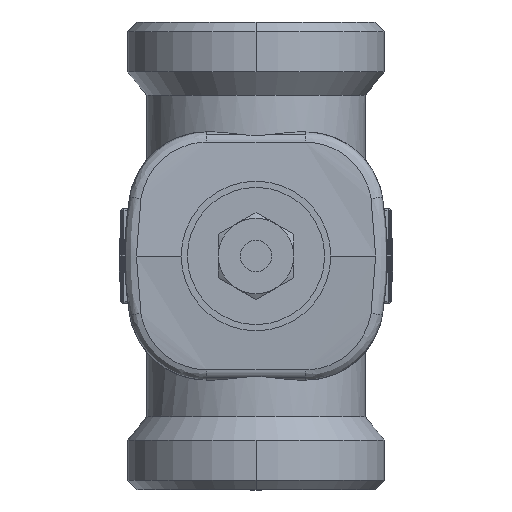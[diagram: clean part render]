
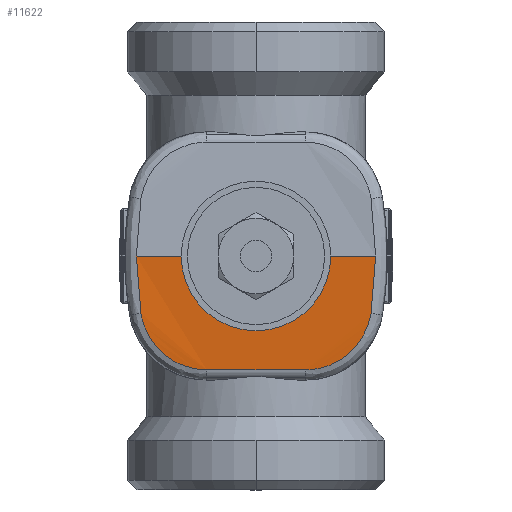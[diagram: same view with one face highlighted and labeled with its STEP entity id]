
A CAD part, front view. The second image highlights one B-rep face of the part: STEP entity #11622.
In plain terms, the highlighted free-form (B-spline) face has degree [1, 2] with [2, 9] control points.
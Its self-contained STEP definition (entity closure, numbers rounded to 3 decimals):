
#11508=CARTESIAN_POINT('',(-38.348,517.48,75.));
#11509=CARTESIAN_POINT('',(38.349,517.48,75.));
#11510=CARTESIAN_POINT('',(-38.348,517.48,-202.99));
#11511=CARTESIAN_POINT('',(38.349,517.48,-202.99));
#11512=CARTESIAN_POINT('',(-38.348,239.49,-202.99));
#11513=CARTESIAN_POINT('',(38.349,239.49,-202.99));
#11514=CARTESIAN_POINT('',(-38.348,-38.5,-202.99));
#11515=CARTESIAN_POINT('',(38.349,-38.5,-202.99));
#11516=CARTESIAN_POINT('',(-38.348,-38.5,75.));
#11517=CARTESIAN_POINT('',(38.349,-38.5,75.));
#11518=CARTESIAN_POINT('',(-38.348,-38.5,352.99));
#11519=CARTESIAN_POINT('',(38.349,-38.5,352.99));
#11520=CARTESIAN_POINT('',(-38.348,239.49,352.99));
#11521=CARTESIAN_POINT('',(38.349,239.49,352.99));
#11522=CARTESIAN_POINT('',(-38.348,517.48,352.99));
#11523=CARTESIAN_POINT('',(38.349,517.48,352.99));
#11524=CARTESIAN_POINT('',(-38.348,517.48,75.));
#11525=CARTESIAN_POINT('',(38.349,517.48,75.));
#11533=(BOUNDED_SURFACE()B_SPLINE_SURFACE(1,2,((#11508,#11510,#11512,#11514,#11516,#11518,#11520,#11522,#11524),(#11509,#11511,#11513,#11515,#11517,#11519,#11521,#11523,#11525)),.UNSPECIFIED.,.F.,.T.,.U.)B_SPLINE_SURFACE_WITH_KNOTS((2,2),(3,2,2,2,3),(-0.047,0.229),(0.0,436.665,873.331,1309.996,1746.662),.UNSPECIFIED.)GEOMETRIC_REPRESENTATION_ITEM()RATIONAL_B_SPLINE_SURFACE(((1.0,0.707,1.0,0.707,1.0,0.707,1.0,0.707,1.0),(1.0,0.707,1.0,0.707,1.0,0.707,1.0,0.707,1.0)))REPRESENTATION_ITEM('')SURFACE());
#11534=CARTESIAN_POINT('',(-38.345,-38.5,75.));
#11535=VERTEX_POINT('',#11534);
#11536=CARTESIAN_POINT('',(38.345,-38.5,75.));
#11537=VERTEX_POINT('',#11536);
#11538=CARTESIAN_POINT('',(-38.345,-38.5,75.));
#11539=DIRECTION('',(1.,0.,0.));
#11540=VECTOR('',#11539,76.69);
#11541=LINE('',#11538,#11540);
#11542=EDGE_CURVE('',#11535,#11537,#11541,.T.);
#11543=ORIENTED_EDGE('',*,*,#11542,.F.);
#11544=CARTESIAN_POINT('',(-36.867,-37.892,56.619));
#11545=VERTEX_POINT('',#11544);
#11546=CARTESIAN_POINT('',(-36.867,-37.892,56.619));
#11547=CARTESIAN_POINT('',(-37.209,-38.032,58.731));
#11548=CARTESIAN_POINT('',(-37.493,-38.148,60.859));
#11549=CARTESIAN_POINT('',(-37.974,-38.347,65.445));
#11550=CARTESIAN_POINT('',(-38.153,-38.42,67.905));
#11551=CARTESIAN_POINT('',(-38.314,-38.487,71.913));
#11552=CARTESIAN_POINT('',(-38.345,-38.5,73.456));
#11553=CARTESIAN_POINT('',(-38.345,-38.5,75.));
#11554=B_SPLINE_CURVE_WITH_KNOTS('',3,(#11546,#11547,#11548,#11549,#11550,#11551,#11552,#11553),.UNSPECIFIED.,.F.,.U.,(4,2,2,4),(0.0,5.061,10.845,14.46),.UNSPECIFIED.);
#11555=EDGE_CURVE('',#11545,#11535,#11554,.T.);
#11556=ORIENTED_EDGE('',*,*,#11555,.F.);
#11557=CARTESIAN_POINT('',(-15.831,-36.094,38.508));
#11558=VERTEX_POINT('',#11557);
#11559=CARTESIAN_POINT('',(-15.831,-36.094,38.508));
#11560=CARTESIAN_POINT('',(-17.576,-36.094,38.508));
#11561=CARTESIAN_POINT('',(-19.342,-36.124,38.729));
#11562=CARTESIAN_POINT('',(-22.998,-36.246,39.664));
#11563=CARTESIAN_POINT('',(-24.857,-36.345,40.435));
#11564=CARTESIAN_POINT('',(-27.674,-36.548,42.105));
#11565=CARTESIAN_POINT('',(-28.703,-36.635,42.846));
#11566=CARTESIAN_POINT('',(-30.13,-36.775,44.078));
#11567=CARTESIAN_POINT('',(-30.586,-36.823,44.508));
#11568=CARTESIAN_POINT('',(-31.721,-36.95,45.677));
#11569=CARTESIAN_POINT('',(-32.373,-37.031,46.45));
#11570=CARTESIAN_POINT('',(-33.92,-37.244,48.57));
#11571=CARTESIAN_POINT('',(-34.722,-37.375,49.974));
#11572=CARTESIAN_POINT('',(-36.072,-37.641,53.105));
#11573=CARTESIAN_POINT('',(-36.581,-37.775,54.852));
#11574=CARTESIAN_POINT('',(-36.867,-37.892,56.619));
#11575=B_SPLINE_CURVE_WITH_KNOTS('',3,(#11559,#11560,#11561,#11562,#11563,#11564,#11565,#11566,#11567,#11568,#11569,#11570,#11571,#11572,#11573,#11574),.UNSPECIFIED.,.F.,.U.,(4,2,2,2,2,2,2,4),(0.,4.175,8.947,11.93,13.421,15.807,19.625,23.86),.UNSPECIFIED.);
#11576=EDGE_CURVE('',#11558,#11545,#11575,.T.);
#11577=ORIENTED_EDGE('',*,*,#11576,.F.);
#11578=CARTESIAN_POINT('',(15.831,-36.094,38.508));
#11579=VERTEX_POINT('',#11578);
#11580=CARTESIAN_POINT('',(15.831,-36.094,38.508));
#11581=DIRECTION('',(-1.0,0.0,0.0));
#11582=VECTOR('',#11581,31.661);
#11583=LINE('',#11580,#11582);
#11584=EDGE_CURVE('',#11579,#11558,#11583,.T.);
#11585=ORIENTED_EDGE('',*,*,#11584,.F.);
#11586=CARTESIAN_POINT('',(36.867,-37.892,56.619));
#11587=VERTEX_POINT('',#11586);
#11588=CARTESIAN_POINT('',(36.867,-37.892,56.619));
#11589=CARTESIAN_POINT('',(36.585,-37.776,54.877));
#11590=CARTESIAN_POINT('',(36.086,-37.645,53.151));
#11591=CARTESIAN_POINT('',(34.589,-37.348,49.653));
#11592=CARTESIAN_POINT('',(33.542,-37.183,47.921));
#11593=CARTESIAN_POINT('',(31.466,-36.919,45.374));
#11594=CARTESIAN_POINT('',(30.58,-36.819,44.463));
#11595=CARTESIAN_POINT('',(29.15,-36.679,43.233));
#11596=CARTESIAN_POINT('',(28.657,-36.634,42.846));
#11597=CARTESIAN_POINT('',(27.336,-36.523,41.898));
#11598=CARTESIAN_POINT('',(26.478,-36.459,41.369));
#11599=CARTESIAN_POINT('',(24.162,-36.309,40.16));
#11600=CARTESIAN_POINT('',(22.662,-36.235,39.583));
#11601=CARTESIAN_POINT('',(19.389,-36.125,38.735));
#11602=CARTESIAN_POINT('',(17.601,-36.094,38.508));
#11603=CARTESIAN_POINT('',(15.831,-36.094,38.508));
#11604=B_SPLINE_CURVE_WITH_KNOTS('',3,(#11588,#11589,#11590,#11591,#11592,#11593,#11594,#11595,#11596,#11597,#11598,#11599,#11600,#11601,#11602,#11603),.UNSPECIFIED.,.F.,.U.,(4,2,2,2,2,2,2,4),(0.,4.175,8.947,11.93,13.421,15.807,19.624,23.859),.UNSPECIFIED.);
#11605=EDGE_CURVE('',#11587,#11579,#11604,.T.);
#11606=ORIENTED_EDGE('',*,*,#11605,.F.);
#11607=CARTESIAN_POINT('',(36.867,-37.892,56.619));
#11608=CARTESIAN_POINT('',(37.21,-38.032,58.739));
#11609=CARTESIAN_POINT('',(37.495,-38.149,60.873));
#11610=CARTESIAN_POINT('',(37.719,-38.242,63.016));
#11611=CARTESIAN_POINT('',(37.976,-38.347,65.464));
#11612=CARTESIAN_POINT('',(38.154,-38.421,67.924));
#11613=CARTESIAN_POINT('',(38.252,-38.462,70.386));
#11614=CARTESIAN_POINT('',(38.314,-38.487,71.924));
#11615=CARTESIAN_POINT('',(38.345,-38.5,73.463));
#11616=CARTESIAN_POINT('',(38.345,-38.5,75.));
#11617=B_SPLINE_CURVE_WITH_KNOTS('',3,(#11607,#11608,#11609,#11610,#11611,#11612,#11613,#11614,#11615,#11616),.UNSPECIFIED.,.F.,.U.,(4,3,3,4),(0.0,5.08,10.886,14.513),.UNSPECIFIED.);
#11618=EDGE_CURVE('',#11537,#11587,#11617,.F.);
#11619=ORIENTED_EDGE('',*,*,#11618,.F.);
#11620=EDGE_LOOP('',(#11543,#11556,#11577,#11585,#11606,#11619));
#11621=FACE_OUTER_BOUND('',#11620,.T.);
#11622=ADVANCED_FACE('',(#11621),#11533,.T.);
